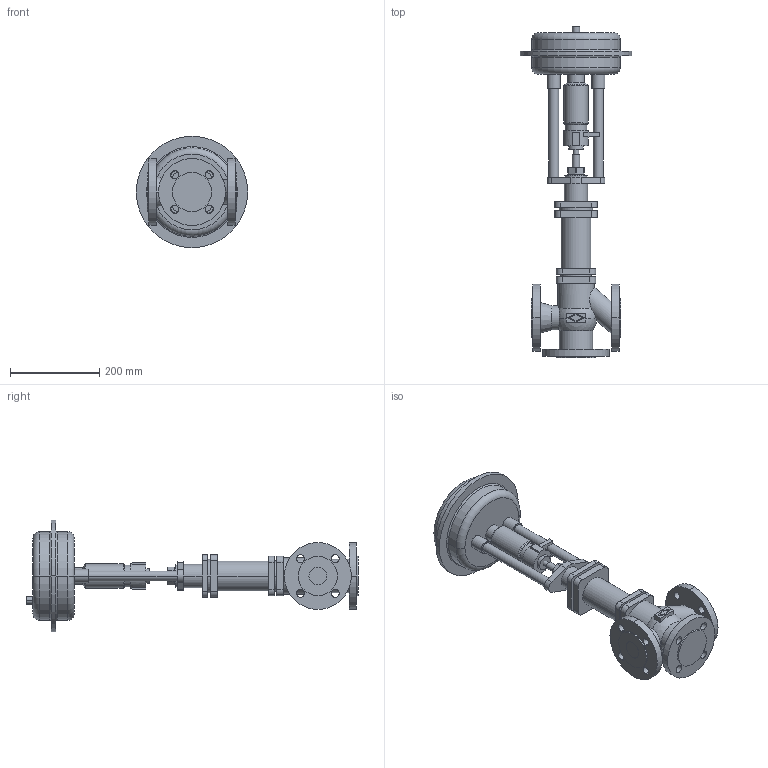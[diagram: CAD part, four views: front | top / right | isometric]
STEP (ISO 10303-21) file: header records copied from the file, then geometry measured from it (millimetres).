
FILE_DESCRIPTION(('OneSpaceDesigner STEP Export'),'2;1');
FILE_NAME('c000000431.stp','2006-09-20T 9:59:06',(''),(''),'OneSpace Designer STEP processor for AP214 (Solid Model)','OneSpace Designer 13.20A 18-Aug-2005 (C) CoCreate Software GmbH','');
FILE_SCHEMA(('AUTOMOTIVE_DESIGN { 1 0 10303 214 1 1 1 1 }'));
Length unit declared in the file: millimetre
Products named in the file (2): 1; 2
Bounding box: 250 x 744.5 x 250 mm (x, y, z)
Volume: 6574917.7 mm3; surface area: 502211.4 mm2
Topology: 2 solids, 2 shells, 243 faces, 598 edges, 393 vertices
Faces by surface type: cylinder 116, plane 101, torus 16, cone 6, sphere 4
Entity records: 6704 total; most frequent: CARTESIAN_POINT 1303, ORIENTED_EDGE 1196, DIRECTION 1016, EDGE_CURVE 598, VERTEX_POINT 393, AXIS2_PLACEMENT_3D 367, EDGE_LOOP 301, VECTOR 282
